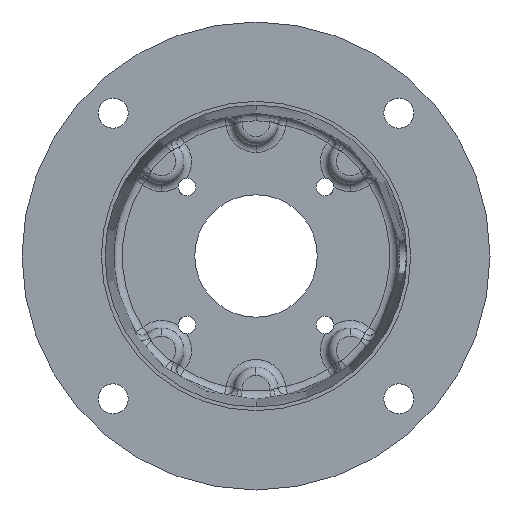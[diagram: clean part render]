
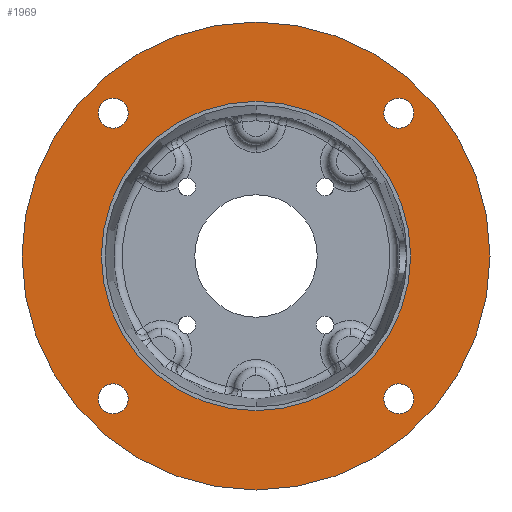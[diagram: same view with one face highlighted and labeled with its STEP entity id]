
A CAD part, front view. The second image highlights one B-rep face of the part: STEP entity #1969.
In plain terms, the highlighted planar face has unit normal (0, -1, 0).
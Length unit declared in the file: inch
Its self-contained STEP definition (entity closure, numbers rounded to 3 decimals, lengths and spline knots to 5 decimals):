
#393 = VERTEX_POINT ( 'NONE', #3929 ) ;
#394 = VERTEX_POINT ( 'NONE', #3909 ) ;
#401 = EDGE_CURVE ( 'NONE', #394, #393, #3888, .T. ) ;
#448 = EDGE_CURVE ( 'NONE', #449, #450, #4018, .T. ) ;
#449 = VERTEX_POINT ( 'NONE', #4113 ) ;
#450 = VERTEX_POINT ( 'NONE', #4024 ) ;
#451 = VERTEX_POINT ( 'NONE', #4040 ) ;
#468 = VERTEX_POINT ( 'NONE', #4042 ) ;
#477 = EDGE_CURVE ( 'NONE', #468, #478, #4099, .T. ) ;
#478 = VERTEX_POINT ( 'NONE', #4094 ) ;
#482 = EDGE_CURVE ( 'NONE', #483, #525, #4031, .T. ) ;
#483 = VERTEX_POINT ( 'NONE', #4120 ) ;
#525 = VERTEX_POINT ( 'NONE', #4177 ) ;
#535 = EDGE_CURVE ( 'NONE', #536, #451, #4198, .T. ) ;
#536 = VERTEX_POINT ( 'NONE', #4211 ) ;
#1672 = EDGE_CURVE ( 'NONE', #1673, #1682, #5016, .T. ) ;
#1673 = VERTEX_POINT ( 'NONE', #5062 ) ;
#1682 = VERTEX_POINT ( 'NONE', #5005 ) ;
#1963 = EDGE_CURVE ( 'NONE', #1682, #1673, #5687, .T. ) ;
#1969 = ADVANCED_FACE ( 'NONE', ( #5730, #5729, #5728, #5727, #5726, #5725 ), #5724, .F. ) ;
#1970 = EDGE_LOOP ( 'NONE', ( #1971, #1973 ) ) ;
#1971 = ORIENTED_EDGE ( 'NONE', *, *, #1972, .F. ) ;
#1972 = EDGE_CURVE ( 'NONE', #478, #468, #5718, .T. ) ;
#1973 = ORIENTED_EDGE ( 'NONE', *, *, #477, .F. ) ;
#1974 = EDGE_LOOP ( 'NONE', ( #1975, #2064 ) ) ;
#1975 = ORIENTED_EDGE ( 'NONE', *, *, #1976, .T. ) ;
#1976 = EDGE_CURVE ( 'NONE', #450, #449, #5713, .T. ) ;
#1978 = EDGE_CURVE ( 'NONE', #393, #394, #5983, .T. ) ;
#1979 = ORIENTED_EDGE ( 'NONE', *, *, #401, .T. ) ;
#1980 = EDGE_LOOP ( 'NONE', ( #1990, #1992 ) ) ;
#1981 = ORIENTED_EDGE ( 'NONE', *, *, #1978, .T. ) ;
#1990 = ORIENTED_EDGE ( 'NONE', *, *, #1991, .T. ) ;
#1991 = EDGE_CURVE ( 'NONE', #451, #536, #6021, .T. ) ;
#1992 = ORIENTED_EDGE ( 'NONE', *, *, #535, .T. ) ;
#1993 = EDGE_LOOP ( 'NONE', ( #1994, #1996 ) ) ;
#1994 = ORIENTED_EDGE ( 'NONE', *, *, #1995, .T. ) ;
#1995 = EDGE_CURVE ( 'NONE', #525, #483, #5934, .T. ) ;
#1996 = ORIENTED_EDGE ( 'NONE', *, *, #482, .T. ) ;
#1997 = EDGE_LOOP ( 'NONE', ( #1998, #1999 ) ) ;
#1998 = ORIENTED_EDGE ( 'NONE', *, *, #1672, .T. ) ;
#1999 = ORIENTED_EDGE ( 'NONE', *, *, #1963, .T. ) ;
#2064 = ORIENTED_EDGE ( 'NONE', *, *, #448, .T. ) ;
#2065 = EDGE_LOOP ( 'NONE', ( #1981, #1979 ) ) ;
#3719 = DIRECTION ( 'NONE',  ( 0., 0., 1. ) ) ;
#3720 = DIRECTION ( 'NONE',  ( 0., 1., 0. ) ) ;
#3888 = CIRCLE ( 'NONE', #3894, 0.21875 ) ;
#3891 = DIRECTION ( 'NONE',  ( 0., 0., 1. ) ) ;
#3892 = DIRECTION ( 'NONE',  ( 0., 1., 0. ) ) ;
#3893 = CARTESIAN_POINT ( 'NONE',  ( -2.07889, 0., -2.07889 ) ) ;
#3894 = AXIS2_PLACEMENT_3D ( 'NONE', #3893, #3892, #3891 ) ;
#3909 = CARTESIAN_POINT ( 'NONE',  ( -2.07889, 0., -2.29764 ) ) ;
#3929 = CARTESIAN_POINT ( 'NONE',  ( -2.07889, 0., -1.86014 ) ) ;
#4016 = CARTESIAN_POINT ( 'NONE',  ( 2.07889, 0., -2.07889 ) ) ;
#4017 = AXIS2_PLACEMENT_3D ( 'NONE', #4016, #3720, #3719 ) ;
#4018 = CIRCLE ( 'NONE', #4017, 0.21875 ) ;
#4024 = CARTESIAN_POINT ( 'NONE',  ( 2.07889, 0., -1.86014 ) ) ;
#4029 = CARTESIAN_POINT ( 'NONE',  ( 2.07889, 0., 2.07889 ) ) ;
#4030 = AXIS2_PLACEMENT_3D ( 'NONE', #4029, #4122, #4121 ) ;
#4031 = CIRCLE ( 'NONE', #4030, 0.21875 ) ;
#4040 = CARTESIAN_POINT ( 'NONE',  ( -2.07889, 0., 2.29764 ) ) ;
#4042 = CARTESIAN_POINT ( 'NONE',  ( 0., 0., 2.2505 ) ) ;
#4094 = CARTESIAN_POINT ( 'NONE',  ( 0., 0., -2.2505 ) ) ;
#4095 = DIRECTION ( 'NONE',  ( 0., 0., -1. ) ) ;
#4096 = DIRECTION ( 'NONE',  ( 0., -1., 0. ) ) ;
#4097 = CARTESIAN_POINT ( 'NONE',  ( 0., 0., 0. ) ) ;
#4098 = AXIS2_PLACEMENT_3D ( 'NONE', #4097, #4096, #4095 ) ;
#4099 = CIRCLE ( 'NONE', #4098, 2.2505 ) ;
#4113 = CARTESIAN_POINT ( 'NONE',  ( 2.07889, 0., -2.29764 ) ) ;
#4120 = CARTESIAN_POINT ( 'NONE',  ( 2.07889, 0., 1.86014 ) ) ;
#4121 = DIRECTION ( 'NONE',  ( 0., 0., 1. ) ) ;
#4122 = DIRECTION ( 'NONE',  ( 0., 1., 0. ) ) ;
#4177 = CARTESIAN_POINT ( 'NONE',  ( 2.07889, 0., 2.29764 ) ) ;
#4197 = CARTESIAN_POINT ( 'NONE',  ( -2.07889, 0., 2.07889 ) ) ;
#4198 = CIRCLE ( 'NONE', #4215, 0.21875 ) ;
#4203 = DIRECTION ( 'NONE',  ( 0., 1., 0. ) ) ;
#4211 = CARTESIAN_POINT ( 'NONE',  ( -2.07889, 0., 1.86014 ) ) ;
#4214 = DIRECTION ( 'NONE',  ( 0., 0., 1. ) ) ;
#4215 = AXIS2_PLACEMENT_3D ( 'NONE', #4197, #4203, #4214 ) ;
#5005 = CARTESIAN_POINT ( 'NONE',  ( 0., 0., 3.405 ) ) ;
#5012 = DIRECTION ( 'NONE',  ( 0., 0., -1. ) ) ;
#5013 = DIRECTION ( 'NONE',  ( 0., -1., 0. ) ) ;
#5014 = CARTESIAN_POINT ( 'NONE',  ( 0., 0., 0. ) ) ;
#5015 = AXIS2_PLACEMENT_3D ( 'NONE', #5014, #5013, #5012 ) ;
#5016 = CIRCLE ( 'NONE', #5015, 3.405 ) ;
#5062 = CARTESIAN_POINT ( 'NONE',  ( 0., 0., -3.405 ) ) ;
#5217 = DIRECTION ( 'NONE',  ( 0., 0., 1. ) ) ;
#5683 = DIRECTION ( 'NONE',  ( 0., 0., -1. ) ) ;
#5684 = DIRECTION ( 'NONE',  ( 0., -1., 0. ) ) ;
#5685 = CARTESIAN_POINT ( 'NONE',  ( 0., 0., 0. ) ) ;
#5686 = AXIS2_PLACEMENT_3D ( 'NONE', #5685, #5684, #5683 ) ;
#5687 = CIRCLE ( 'NONE', #5686, 3.405 ) ;
#5710 = DIRECTION ( 'NONE',  ( 0., 1., 0. ) ) ;
#5711 = CARTESIAN_POINT ( 'NONE',  ( 2.07889, 0., -2.07889 ) ) ;
#5712 = AXIS2_PLACEMENT_3D ( 'NONE', #5711, #5710, #5217 ) ;
#5713 = CIRCLE ( 'NONE', #5712, 0.21875 ) ;
#5715 = DIRECTION ( 'NONE',  ( 0., 0., -1. ) ) ;
#5716 = DIRECTION ( 'NONE',  ( 0., -1., 0. ) ) ;
#5717 = AXIS2_PLACEMENT_3D ( 'NONE', #5722, #5716, #5715 ) ;
#5718 = CIRCLE ( 'NONE', #5717, 2.2505 ) ;
#5719 = DIRECTION ( 'NONE',  ( 0., 0., 1. ) ) ;
#5720 = DIRECTION ( 'NONE',  ( 0., 1., 0. ) ) ;
#5721 = AXIS2_PLACEMENT_3D ( 'NONE', #5723, #5720, #5719 ) ;
#5722 = CARTESIAN_POINT ( 'NONE',  ( 0., 0., 0. ) ) ;
#5723 = CARTESIAN_POINT ( 'NONE',  ( -2.20315, 0., 0. ) ) ;
#5724 = PLANE ( 'NONE',  #5721 ) ;
#5725 = FACE_OUTER_BOUND ( 'NONE', #1997, .T. ) ;
#5726 = FACE_BOUND ( 'NONE', #1993, .T. ) ;
#5727 = FACE_BOUND ( 'NONE', #1980, .T. ) ;
#5728 = FACE_BOUND ( 'NONE', #2065, .T. ) ;
#5729 = FACE_BOUND ( 'NONE', #1974, .T. ) ;
#5730 = FACE_BOUND ( 'NONE', #1970, .T. ) ;
#5932 = DIRECTION ( 'NONE',  ( 0., 1., 0. ) ) ;
#5933 = AXIS2_PLACEMENT_3D ( 'NONE', #6008, #5932, #5982 ) ;
#5934 = CIRCLE ( 'NONE', #5933, 0.21875 ) ;
#5936 = CARTESIAN_POINT ( 'NONE',  ( -2.07889, 0., -2.07889 ) ) ;
#5941 = AXIS2_PLACEMENT_3D ( 'NONE', #5936, #5962, #5998 ) ;
#5962 = DIRECTION ( 'NONE',  ( 0., 1., 0. ) ) ;
#5982 = DIRECTION ( 'NONE',  ( 0., 0., 1. ) ) ;
#5983 = CIRCLE ( 'NONE', #5941, 0.21875 ) ;
#5998 = DIRECTION ( 'NONE',  ( 0., 0., 1. ) ) ;
#6008 = CARTESIAN_POINT ( 'NONE',  ( 2.07889, 0., 2.07889 ) ) ;
#6009 = DIRECTION ( 'NONE',  ( 0., 0., 1. ) ) ;
#6018 = DIRECTION ( 'NONE',  ( 0., 1., 0. ) ) ;
#6019 = CARTESIAN_POINT ( 'NONE',  ( -2.07889, 0., 2.07889 ) ) ;
#6020 = AXIS2_PLACEMENT_3D ( 'NONE', #6019, #6018, #6009 ) ;
#6021 = CIRCLE ( 'NONE', #6020, 0.21875 ) ;
